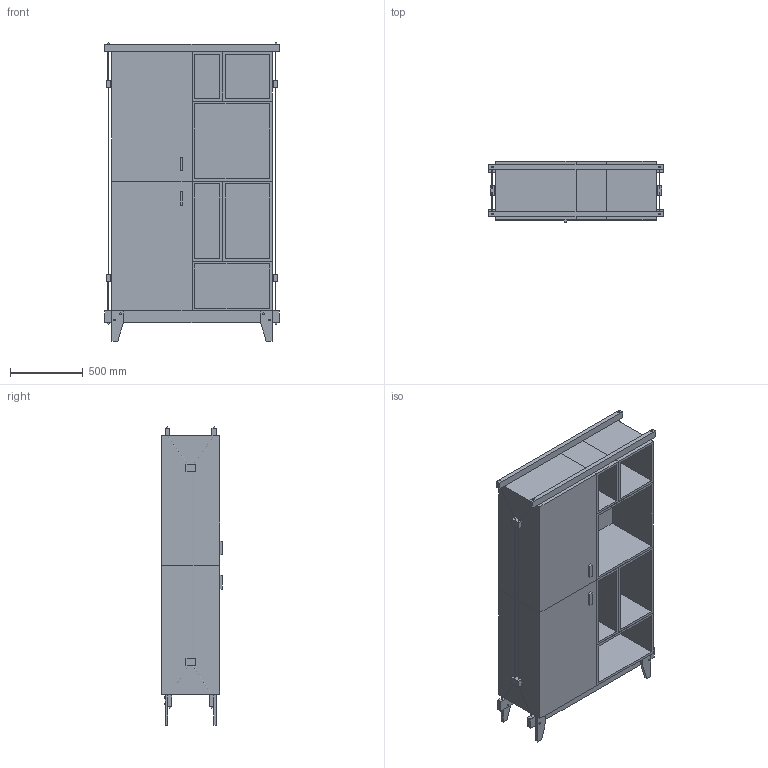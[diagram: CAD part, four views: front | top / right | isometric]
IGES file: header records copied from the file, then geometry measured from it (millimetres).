
Start section: Data from Parasolid IGES Translator 17.0.49, Copyright(c) 2006 Siemens P LM Software. All Rights Reserved.
Global section: file name: Saam H.igs; native system: By Siemens PLM Incorporated; preprocessor: XPlus GENERIC/IGES 17.0.49; author: Noname; organization: Noname; date: 20170605.062852; units: metre
Bounding box: 1200 x 418 x 2052 mm (x, y, z)
Volume: 483743627.3 mm3; surface area: 14663299.8 mm2
Topology: 36 solids, 36 shells, 240 faces, 476 edges, 316 vertices
Faces by surface type: plane 204, cylinder 28, sphere 8
Full cylindrical faces by diameter (mm): 3 x12, 12 x16
